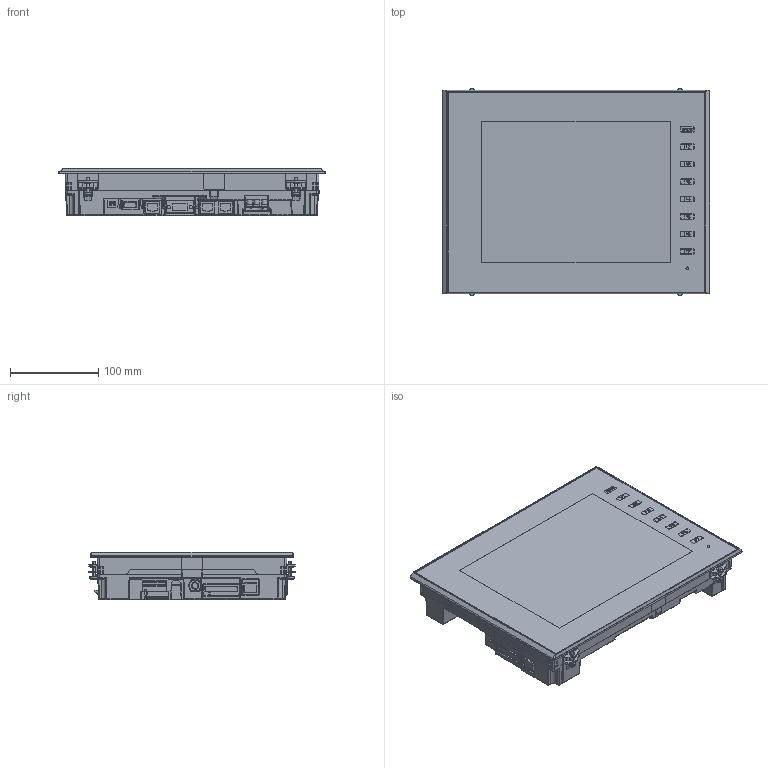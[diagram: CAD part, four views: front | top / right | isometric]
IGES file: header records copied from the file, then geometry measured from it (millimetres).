
Start section:  PTC IGES file: v910icd-3d-data.igs
Global section: file name: v910icd-3d-data.igs; native system: Pro/ENGINEER by Parametric Technology Corporation; preprocessor: 2007390; author: takahashi; organization: Unknown; date: 20140508.101217; units: millimetre
Bounding box: 303.8 x 234.4 x 54 mm (x, y, z)
Volume: 2666565.8 mm3; surface area: 209999.1 mm2
Topology: 1 solids, 1 shells, 3540 faces, 9846 edges, 6402 vertices
Faces by surface type: bspline 2897, revolution 626, extrusion 17
